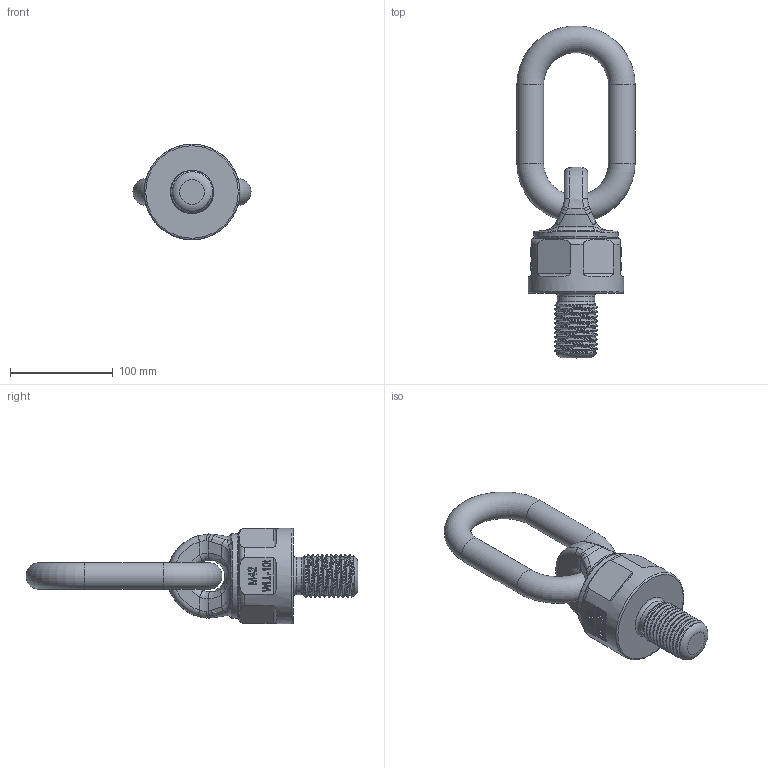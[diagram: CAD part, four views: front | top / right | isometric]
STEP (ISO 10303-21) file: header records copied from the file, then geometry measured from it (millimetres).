
FILE_DESCRIPTION(/* description */ (''),/* implementation_level */ '2;1');
FILE_NAME(/* name */ 'YTJ-M42.stp',/* time_stamp */ '2025-04-02T11:22:25+08:00',/* author */ (''),/* organization */ (''),/* preprocessor_version */ 'ST-DEVELOPER v16',/* originating_system */ 'SIEMENS PLM Software NX 10.0',/* authorisation */ '');
FILE_SCHEMA (('AP203_CONFIGURATION_CONTROLLED_3D_DESIGN_OF_MECHANICAL_PARTS_AND_ASSEMBLIES_MIM_LF { 1 0 10303 403 2 1 2}'));
Length unit declared in the file: millimetre
Products named in the file (1): Admi177C9AD32i9c
Bounding box: 115 x 323.04 x 93 mm (x, y, z)
Volume: 780031.9 mm3; surface area: 107082.7 mm2
Topology: 3 solids, 3 shells, 297 faces, 759 edges, 483 vertices
Faces by surface type: plane 131, bspline 68, extrusion 41, torus 28, cylinder 23, cone 5, sphere 1
Full cylindrical faces by diameter (mm): 26 x2, 36.2 x1, 50 x2, 82 x1, 93 x1
Entity records: 13067 total; most frequent: CARTESIAN_POINT 6685, ORIENTED_EDGE 1444, DIRECTION 1021, EDGE_CURVE 722, VERTEX_POINT 469, AXIS2_PLACEMENT_3D 358, EDGE_LOOP 337, B_SPLINE_CURVE_WITH_KNOTS 329
